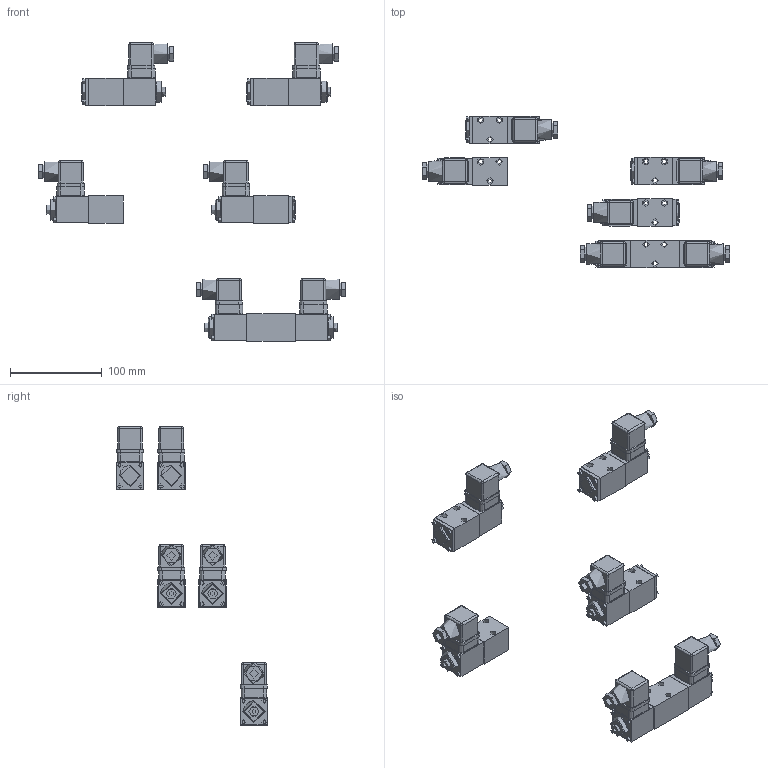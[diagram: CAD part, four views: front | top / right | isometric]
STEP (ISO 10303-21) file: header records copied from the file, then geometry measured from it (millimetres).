
FILE_DESCRIPTION(('Bauteilbeschreibung','HiCAD-Model','HiCAD-STEP-TRANSLATION','Bauteilbeschreibung'),'2;1');
FILE_NAME('D:/B_03.STP','2006-09-28T17:49:35+00:00',('Konstrukteur'),('Konstrukteur Firma GmbH'),'HiCAD3 V1210 STEP 1.6.2005','HiCAD3 V1210','confidential');
FILE_SCHEMA(('AUTOMOTIVE_DESIGN { 1 2 10303 214 0 1 1 1 }'));
Length unit declared in the file: millimetre
Products named in the file (104): B_03; B_3403; AA4727C9; E9CADD55; CC224A21; CA9517B3; CA9517B30; DICHTUNG; A7DF312F; F134825D; CC224A210; CA9517B31; CA9517B32; DICHTUNG0; A7DF312F0; F134825D0; D82DEE49; D82DEE490; IN6KTM3; IN6KTM30; IN6KTM31; IN6KTM32; IN6KTM33; IN6KTM34; IN6KTM35; IN6KTM36; IN6KTM37; IN6KTM38; B_32031A; AC32B2E8; CC224A211; CA9517B33; CA9517B34; DICHTUNG1; A7DF312F1; F134825D1; D82DEE491; IN6KTM39; IN6KTM310; IN6KTM311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
Assembly tree (103 placements, depth 6):
  B_03
    B_3403
      AA4727C9
        E9CADD55
        CC224A21
          CA9517B3
          CA9517B30
            DICHTUNG
          A7DF312F
          F134825D
        CC224A210
          CA9517B31
          CA9517B32
            DICHTUNG0
          A7DF312F0
          F134825D0
        D82DEE49
        D82DEE490
        IN6KTM3
          IN6KTM30
          IN6KTM31
          IN6KTM32
          IN6KTM33
        IN6KTM34
          IN6KTM35
          IN6KTM36
          IN6KTM37
          IN6KTM38
    B_32031A
      AC32B2E8
        CC224A211
          CA9517B33
          CA9517B34
            DICHTUNG1
          A7DF312F1
          F134825D1
        D82DEE491
        IN6KTM39
          IN6KTM310
          IN6KTM311
          IN6KTM312
          IN6KTM313
        IN6KTM314
          IN6KTM315
          IN6KTM316
          IN6KTM317
          IN6KTM318
        FF7E946B
        FF7E946B0
          IN6KTM319
            IN6KTM320
            IN6KTM321
            IN6KTM322
            IN6KTM323
        AC9BECA4
    B_22031A
      BD79C406
        CC224A212
          CA9517B35
          CA9517B36
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Bounding box: 335.5 x 165 x 325.5 mm (x, y, z)
Topology: 88 solids, 102 shells, 1457 faces, 3320 edges, 2214 vertices
Faces by surface type: plane 929, cylinder 450, cone 42, sphere 24, torus 12
Full cylindrical faces by diameter (mm): 1.5 x18, 2.5 x28, 2.9 x6, 3 x26, 3.4 x36, 4 x6, 4.2 x15, 5.5 x32, 6.5 x6, 6.8 x6, 7 x25, 7.5 x15, 8 x12, 10 x6, 11 x6, 12 x6, 15 x6, 20 x6, 22 x6, 23 x9, 27 x6
Entity records: 70127 total; most frequent: CARTESIAN_POINT 10524, DIRECTION 7012, ORIENTED_EDGE 5558, COLOUR_RGB 4306, PRESENTATION_STYLE_ASSIGNMENT 4306, OVER_RIDING_STYLED_ITEM 4236, CURVE_STYLE 2779, DRAUGHTING_PRE_DEFINED_CURVE_FONT 2779
